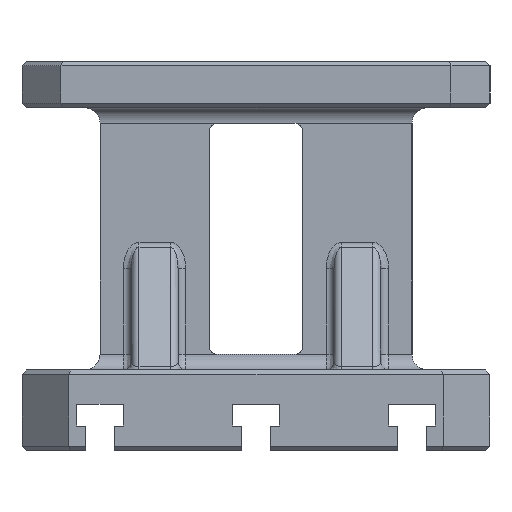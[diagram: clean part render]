
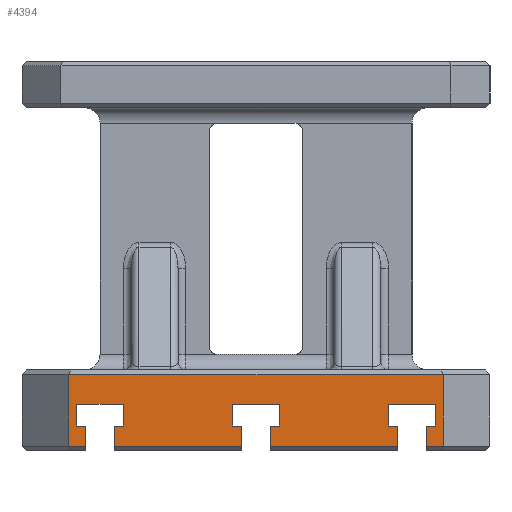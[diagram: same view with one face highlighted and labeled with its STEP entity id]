
A CAD part, left-side view. The second image highlights one B-rep face of the part: STEP entity #4394.
In plain terms, the highlighted planar face has unit normal (-1, 0, 0).
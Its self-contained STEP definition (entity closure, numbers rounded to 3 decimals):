
#141=DIRECTION('',(0.,0.,1.));
#142=VECTOR('',#141,13.);
#143=CARTESIAN_POINT('',(-300.,-109.,-23.));
#144=LINE('',#143,#142);
#145=DIRECTION('',(0.,-1.,0.));
#146=VECTOR('',#145,6.);
#147=CARTESIAN_POINT('',(-300.,-109.,-10.));
#148=LINE('',#147,#146);
#149=DIRECTION('',(0.,0.,1.));
#150=VECTOR('',#149,14.);
#151=CARTESIAN_POINT('',(-300.,-115.,-10.));
#152=LINE('',#151,#150);
#153=DIRECTION('',(0.,1.,0.));
#154=VECTOR('',#153,30.);
#155=CARTESIAN_POINT('',(-300.,-115.,4.));
#156=LINE('',#155,#154);
#157=DIRECTION('',(0.,0.,-1.));
#158=VECTOR('',#157,14.);
#159=CARTESIAN_POINT('',(-300.,-85.,4.));
#160=LINE('',#159,#158);
#161=DIRECTION('',(0.,-1.,0.));
#162=VECTOR('',#161,6.);
#163=CARTESIAN_POINT('',(-300.,-85.,-10.));
#164=LINE('',#163,#162);
#165=DIRECTION('',(0.,0.,1.));
#166=VECTOR('',#165,13.);
#167=CARTESIAN_POINT('',(-300.,-91.,-23.));
#168=LINE('',#167,#166);
#169=DIRECTION('',(0.,1.,0.));
#170=VECTOR('',#169,82.);
#171=CARTESIAN_POINT('',(-300.,-91.,-23.));
#172=LINE('',#171,#170);
#173=DIRECTION('',(0.,0.,1.));
#174=VECTOR('',#173,13.);
#175=CARTESIAN_POINT('',(-300.,-9.,-23.));
#176=LINE('',#175,#174);
#177=DIRECTION('',(0.,-1.,0.));
#178=VECTOR('',#177,6.);
#179=CARTESIAN_POINT('',(-300.,-9.,-10.));
#180=LINE('',#179,#178);
#181=DIRECTION('',(0.,0.,1.));
#182=VECTOR('',#181,14.);
#183=CARTESIAN_POINT('',(-300.,-15.,-10.));
#184=LINE('',#183,#182);
#185=DIRECTION('',(0.,1.,0.));
#186=VECTOR('',#185,30.);
#187=CARTESIAN_POINT('',(-300.,-15.,4.));
#188=LINE('',#187,#186);
#189=DIRECTION('',(0.,0.,-1.));
#190=VECTOR('',#189,14.);
#191=CARTESIAN_POINT('',(-300.,15.,4.));
#192=LINE('',#191,#190);
#193=DIRECTION('',(0.,-1.,0.));
#194=VECTOR('',#193,6.);
#195=CARTESIAN_POINT('',(-300.,15.,-10.));
#196=LINE('',#195,#194);
#197=DIRECTION('',(0.,0.,1.));
#198=VECTOR('',#197,13.);
#199=CARTESIAN_POINT('',(-300.,9.,-23.));
#200=LINE('',#199,#198);
#201=DIRECTION('',(0.,1.,0.));
#202=VECTOR('',#201,82.);
#203=CARTESIAN_POINT('',(-300.,9.,-23.));
#204=LINE('',#203,#202);
#205=DIRECTION('',(0.,0.,1.));
#206=VECTOR('',#205,13.);
#207=CARTESIAN_POINT('',(-300.,91.,-23.));
#208=LINE('',#207,#206);
#209=DIRECTION('',(0.,-1.,0.));
#210=VECTOR('',#209,6.);
#211=CARTESIAN_POINT('',(-300.,91.,-10.));
#212=LINE('',#211,#210);
#213=DIRECTION('',(0.,0.,1.));
#214=VECTOR('',#213,14.);
#215=CARTESIAN_POINT('',(-300.,85.,-10.));
#216=LINE('',#215,#214);
#217=DIRECTION('',(0.,1.,0.));
#218=VECTOR('',#217,30.);
#219=CARTESIAN_POINT('',(-300.,85.,4.));
#220=LINE('',#219,#218);
#221=DIRECTION('',(0.,0.,-1.));
#222=VECTOR('',#221,14.);
#223=CARTESIAN_POINT('',(-300.,115.,4.));
#224=LINE('',#223,#222);
#225=DIRECTION('',(0.,-1.,0.));
#226=VECTOR('',#225,6.);
#227=CARTESIAN_POINT('',(-300.,115.,-10.));
#228=LINE('',#227,#226);
#229=DIRECTION('',(0.,0.,1.));
#230=VECTOR('',#229,13.);
#231=CARTESIAN_POINT('',(-300.,109.,-23.));
#232=LINE('',#231,#230);
#233=DIRECTION('',(0.,1.,0.));
#234=VECTOR('',#233,11.);
#235=CARTESIAN_POINT('',(-300.,109.,-23.));
#236=LINE('',#235,#234);
#237=DIRECTION('',(0.,0.,-1.));
#238=VECTOR('',#237,46.);
#239=CARTESIAN_POINT('',(-300.,120.,23.));
#240=LINE('',#239,#238);
#241=DIRECTION('',(0.,-1.,0.));
#242=VECTOR('',#241,240.);
#243=CARTESIAN_POINT('',(-300.,120.,23.));
#244=LINE('',#243,#242);
#245=DIRECTION('',(0.,0.,-1.));
#246=VECTOR('',#245,46.);
#247=CARTESIAN_POINT('',(-300.,-120.,23.));
#248=LINE('',#247,#246);
#249=DIRECTION('',(0.,1.,0.));
#250=VECTOR('',#249,11.);
#251=CARTESIAN_POINT('',(-300.,-120.,-23.));
#252=LINE('',#251,#250);
#3297=CARTESIAN_POINT('',(-300.,120.,-23.));
#3299=VERTEX_POINT('',#3297);
#3327=CARTESIAN_POINT('',(-300.,-120.,-23.));
#3328=VERTEX_POINT('',#3327);
#3363=CARTESIAN_POINT('',(-300.,120.,23.));
#3364=VERTEX_POINT('',#3363);
#3373=CARTESIAN_POINT('',(-300.,-120.,23.));
#3374=VERTEX_POINT('',#3373);
#3999=CARTESIAN_POINT('',(-300.,-9.,-23.));
#4000=CARTESIAN_POINT('',(-300.,-9.,-10.));
#4001=VERTEX_POINT('',#3999);
#4002=VERTEX_POINT('',#4000);
#4003=CARTESIAN_POINT('',(-300.,-15.,-10.));
#4004=VERTEX_POINT('',#4003);
#4005=CARTESIAN_POINT('',(-300.,-15.,4.));
#4006=VERTEX_POINT('',#4005);
#4007=CARTESIAN_POINT('',(-300.,15.,4.));
#4008=VERTEX_POINT('',#4007);
#4009=CARTESIAN_POINT('',(-300.,15.,-10.));
#4010=VERTEX_POINT('',#4009);
#4011=CARTESIAN_POINT('',(-300.,9.,-10.));
#4012=VERTEX_POINT('',#4011);
#4013=CARTESIAN_POINT('',(-300.,9.,-23.));
#4014=VERTEX_POINT('',#4013);
#4039=CARTESIAN_POINT('',(-300.,91.,-23.));
#4040=CARTESIAN_POINT('',(-300.,91.,-10.));
#4041=VERTEX_POINT('',#4039);
#4042=VERTEX_POINT('',#4040);
#4043=CARTESIAN_POINT('',(-300.,85.,-10.));
#4044=VERTEX_POINT('',#4043);
#4045=CARTESIAN_POINT('',(-300.,85.,4.));
#4046=VERTEX_POINT('',#4045);
#4047=CARTESIAN_POINT('',(-300.,115.,4.));
#4048=VERTEX_POINT('',#4047);
#4049=CARTESIAN_POINT('',(-300.,115.,-10.));
#4050=VERTEX_POINT('',#4049);
#4051=CARTESIAN_POINT('',(-300.,109.,-10.));
#4052=VERTEX_POINT('',#4051);
#4053=CARTESIAN_POINT('',(-300.,109.,-23.));
#4054=VERTEX_POINT('',#4053);
#4079=CARTESIAN_POINT('',(-300.,-109.,-23.));
#4080=CARTESIAN_POINT('',(-300.,-109.,-10.));
#4081=VERTEX_POINT('',#4079);
#4082=VERTEX_POINT('',#4080);
#4083=CARTESIAN_POINT('',(-300.,-115.,-10.));
#4084=VERTEX_POINT('',#4083);
#4085=CARTESIAN_POINT('',(-300.,-115.,4.));
#4086=VERTEX_POINT('',#4085);
#4087=CARTESIAN_POINT('',(-300.,-85.,4.));
#4088=VERTEX_POINT('',#4087);
#4089=CARTESIAN_POINT('',(-300.,-85.,-10.));
#4090=VERTEX_POINT('',#4089);
#4091=CARTESIAN_POINT('',(-300.,-91.,-10.));
#4092=VERTEX_POINT('',#4091);
#4093=CARTESIAN_POINT('',(-300.,-91.,-23.));
#4094=VERTEX_POINT('',#4093);
#4337=CARTESIAN_POINT('',(-300.,150.,-26.));
#4338=DIRECTION('',(-1.,0.,0.));
#4339=DIRECTION('',(0.,-1.,0.));
#4340=AXIS2_PLACEMENT_3D('',#4337,#4338,#4339);
#4341=PLANE('',#4340);
#4343=ORIENTED_EDGE('',*,*,#4342,.T.);
#4345=ORIENTED_EDGE('',*,*,#4344,.T.);
#4347=ORIENTED_EDGE('',*,*,#4346,.T.);
#4349=ORIENTED_EDGE('',*,*,#4348,.T.);
#4351=ORIENTED_EDGE('',*,*,#4350,.T.);
#4353=ORIENTED_EDGE('',*,*,#4352,.T.);
#4355=ORIENTED_EDGE('',*,*,#4354,.F.);
#4356=ORIENTED_EDGE('',*,*,#4332,.T.);
#4358=ORIENTED_EDGE('',*,*,#4357,.T.);
#4360=ORIENTED_EDGE('',*,*,#4359,.T.);
#4362=ORIENTED_EDGE('',*,*,#4361,.T.);
#4364=ORIENTED_EDGE('',*,*,#4363,.T.);
#4366=ORIENTED_EDGE('',*,*,#4365,.T.);
#4368=ORIENTED_EDGE('',*,*,#4367,.T.);
#4369=ORIENTED_EDGE('',*,*,#4269,.F.);
#4370=ORIENTED_EDGE('',*,*,#4285,.T.);
#4371=ORIENTED_EDGE('',*,*,#4195,.T.);
#4373=ORIENTED_EDGE('',*,*,#4372,.T.);
#4375=ORIENTED_EDGE('',*,*,#4374,.T.);
#4377=ORIENTED_EDGE('',*,*,#4376,.T.);
#4379=ORIENTED_EDGE('',*,*,#4378,.T.);
#4381=ORIENTED_EDGE('',*,*,#4380,.T.);
#4383=ORIENTED_EDGE('',*,*,#4382,.F.);
#4384=ORIENTED_EDGE('',*,*,#4302,.T.);
#4386=ORIENTED_EDGE('',*,*,#4385,.F.);
#4388=ORIENTED_EDGE('',*,*,#4387,.T.);
#4390=ORIENTED_EDGE('',*,*,#4389,.T.);
#4391=ORIENTED_EDGE('',*,*,#4314,.T.);
#4392=EDGE_LOOP('',(#4343,#4345,#4347,#4349,#4351,#4353,#4355,#4356,#4358,#4360,
#4362,#4364,#4366,#4368,#4369,#4370,#4371,#4373,#4375,#4377,#4379,#4381,#4383,
#4384,#4386,#4388,#4390,#4391));
#4393=FACE_OUTER_BOUND('',#4392,.F.);
#4394=ADVANCED_FACE('',(#4393),#4341,.T.);
#4195=EDGE_CURVE('',#4041,#4042,#208,.T.);
#4269=EDGE_CURVE('',#4014,#4012,#200,.T.);
#4285=EDGE_CURVE('',#4014,#4041,#204,.T.);
#4302=EDGE_CURVE('',#4054,#3299,#236,.T.);
#4314=EDGE_CURVE('',#3328,#4081,#252,.T.);
#4332=EDGE_CURVE('',#4094,#4001,#172,.T.);
#4342=EDGE_CURVE('',#4081,#4082,#144,.T.);
#4344=EDGE_CURVE('',#4082,#4084,#148,.T.);
#4346=EDGE_CURVE('',#4084,#4086,#152,.T.);
#4348=EDGE_CURVE('',#4086,#4088,#156,.T.);
#4350=EDGE_CURVE('',#4088,#4090,#160,.T.);
#4352=EDGE_CURVE('',#4090,#4092,#164,.T.);
#4354=EDGE_CURVE('',#4094,#4092,#168,.T.);
#4357=EDGE_CURVE('',#4001,#4002,#176,.T.);
#4359=EDGE_CURVE('',#4002,#4004,#180,.T.);
#4361=EDGE_CURVE('',#4004,#4006,#184,.T.);
#4363=EDGE_CURVE('',#4006,#4008,#188,.T.);
#4365=EDGE_CURVE('',#4008,#4010,#192,.T.);
#4367=EDGE_CURVE('',#4010,#4012,#196,.T.);
#4372=EDGE_CURVE('',#4042,#4044,#212,.T.);
#4374=EDGE_CURVE('',#4044,#4046,#216,.T.);
#4376=EDGE_CURVE('',#4046,#4048,#220,.T.);
#4378=EDGE_CURVE('',#4048,#4050,#224,.T.);
#4380=EDGE_CURVE('',#4050,#4052,#228,.T.);
#4382=EDGE_CURVE('',#4054,#4052,#232,.T.);
#4385=EDGE_CURVE('',#3364,#3299,#240,.T.);
#4387=EDGE_CURVE('',#3364,#3374,#244,.T.);
#4389=EDGE_CURVE('',#3374,#3328,#248,.T.);
